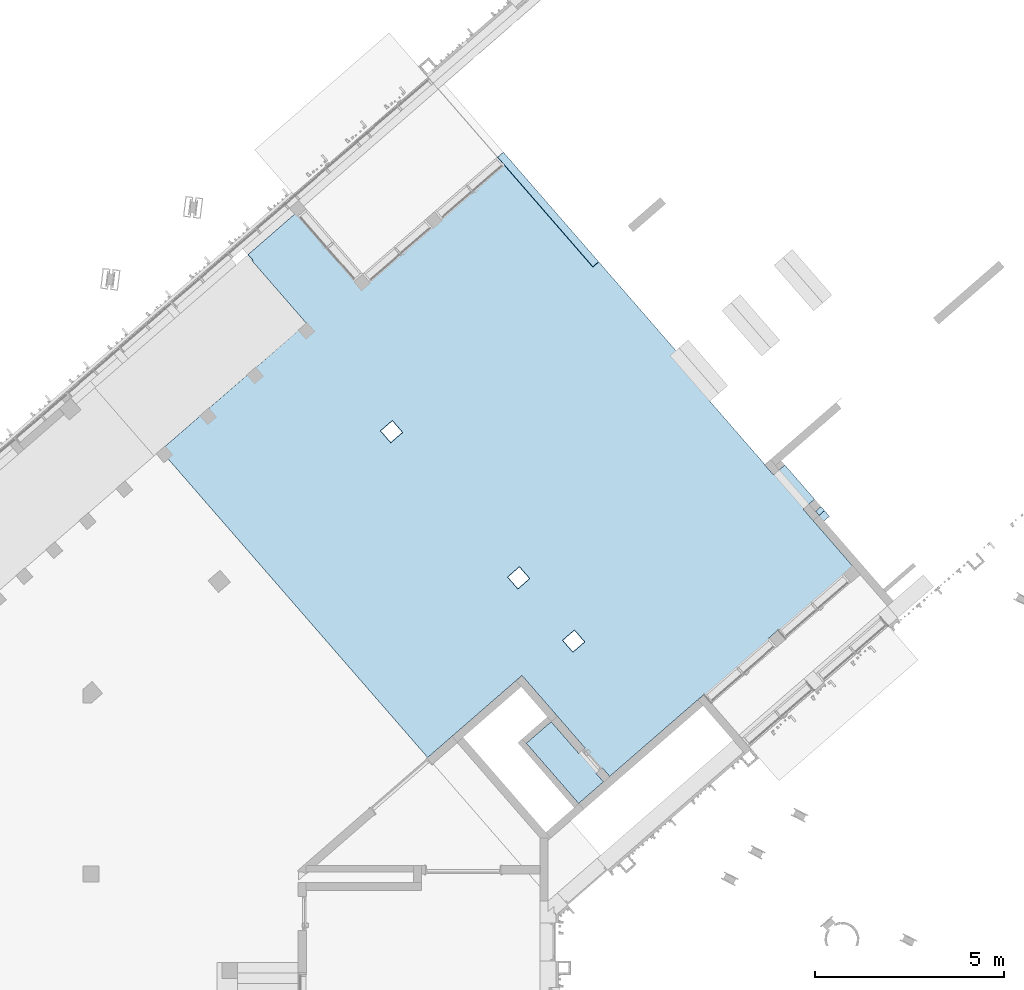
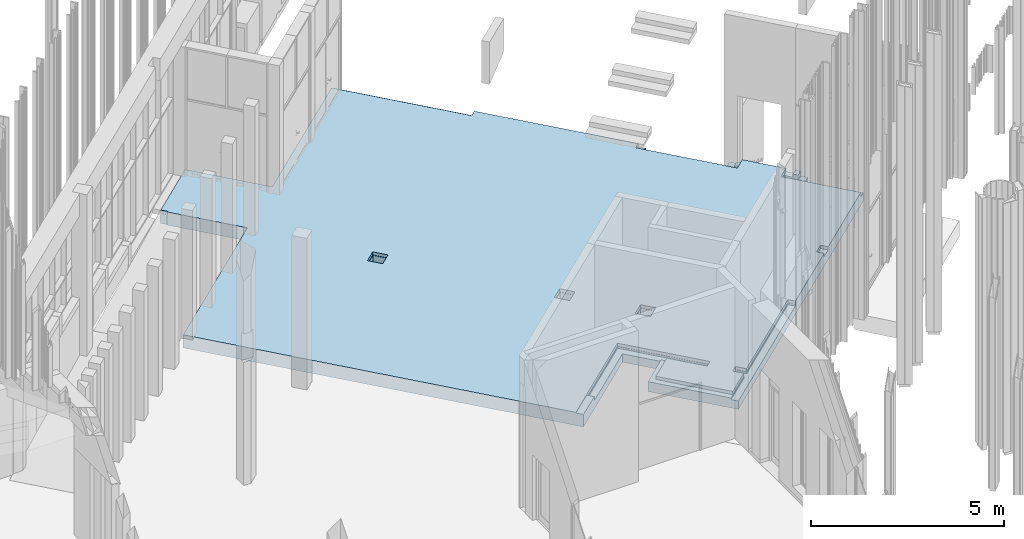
# One storey, part 80 of 390: 1 slab.
"""IFC2X3 building model written with IfcOpenShell, lengths in millimetres."""

from ifc_helpers import new_model, entity, si_unit, converted_unit, derived_unit, money_unit, direction, frame, origin_with_axes, place, context, subcontext, project, spatial, faceted_brep, material, material_list, type_object, element, save


model = new_model("IFC2X3")

# Units and contexts
model_context = context("Model", 3, precision=1e-05, world=origin_with_axes(), true_north=direction((0.0, 1.0)))
body_context = subcontext(model_context, "Body", "Model", "MODEL_VIEW")
ifc_project = project(units=[si_unit("LENGTHUNIT", "METRE", prefix="MILLI"), si_unit("AREAUNIT", "SQUARE_METRE"), si_unit("VOLUMEUNIT", "CUBIC_METRE"), converted_unit("PLANEANGLEUNIT", "DEGREE", entity("IfcPlaneAngleMeasure", 0.0174532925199), si_unit("PLANEANGLEUNIT", "RADIAN"), dimensions=[0, 0, 0, 0, 0, 0, 0]), si_unit("SOLIDANGLEUNIT", "STERADIAN"), money_unit("EUR"), converted_unit("TIMEUNIT", "Year", entity("IfcTimeMeasure", 31556926.0), si_unit("TIMEUNIT", "SECOND"), dimensions=[0, 0, 1, 0, 0, 0, 0]), si_unit("MASSUNIT", "GRAM", prefix="KILO"), si_unit("THERMODYNAMICTEMPERATUREUNIT", "DEGREE_CELSIUS"), si_unit("LUMINOUSINTENSITYUNIT", "LUMEN"), si_unit("ENERGYUNIT", "JOULE", prefix="MEGA"), derived_unit("THERMALCONDUCTANCEUNIT", [(si_unit("POWERUNIT", "WATT"), 1), (si_unit("LENGTHUNIT", "METRE"), -1), (si_unit("THERMODYNAMICTEMPERATUREUNIT", "KELVIN"), -1)]), derived_unit("SPECIFICHEATCAPACITYUNIT", [(si_unit("ENERGYUNIT", "JOULE"), 1), (si_unit("MASSUNIT", "GRAM", prefix="KILO"), -1), (si_unit("THERMODYNAMICTEMPERATUREUNIT", "KELVIN"), -1)]), derived_unit("MASSDENSITYUNIT", [(si_unit("MASSUNIT", "GRAM", prefix="KILO"), 1), (si_unit("VOLUMEUNIT", "CUBIC_METRE"), -1)])], contexts=[model_context])

# Site, building, storey
site_placement = place(None, origin_with_axes())
site = spatial("IfcSite", under=ifc_project, at=site_placement, Name="Site", CompositionType="ELEMENT")
building_placement = place(site_placement, origin_with_axes())
building = spatial("IfcBuilding", under=site, at=building_placement, Name="Building", CompositionType="ELEMENT")
storey_placement = place(building_placement, origin_with_axes())
storey = spatial("IfcBuildingStorey", under=building, at=storey_placement, Name="1 korrus", CompositionType="ELEMENT", Elevation=0.0)

# Slab
ifc_material_1 = material(Name="Puit - Põrand")
ifc_material_2 = material(Name="Betoon")
ifc_material_3 = material(Name="00_mineraalvillaplaat - jäik")
ifc_material_4 = material(Name="Soojustus - Plastik Kõva")
ifc_material_5 = material(Name="Raudbetoon - Konstruktsioon")
ifc_material_list = material_list([ifc_material_1, ifc_material_1, ifc_material_2, ifc_material_2, ifc_material_3, ifc_material_4, ifc_material_4, ifc_material_4, ifc_material_5])
slab_type = type_object("IfcSlabType", Name="VL-01", PredefinedType="FLOOR")
slab_placement = place(storey_placement, frame((129236.831147, 78521.841349, 0.0), z_axis=(0.0, 0.0, 1.0), x_axis=(1.0, 0.0, 0.0)))
element("IfcSlab", 1, at=slab_placement, inside=storey, type_object=slab_type, material=ifc_material_list, Name="VL-01", PredefinedType="FLOOR", context=body_context, shape_type="Brep", body=[
    faceted_brep([(17580.7435235, -1597.95924276, -20.0), (17488.8948544, -1492.29950329, -20.0), (17488.8948544, -1492.29950329, 0.0), (17580.7435235, -1597.95924276, 0.0), (17437.3487344, -1722.61043123, -20.0), (17345.5001384, -1616.95070804, -20.0), (17345.5001384, -1616.95070804, 0.0), (17437.3487344, -1722.61043123, 0.0)], [[[0, 1, 2, 3]], [[4, 5, 1, 0]], [[5, 6, 2, 1]], [[3, 2, 6, 7]], [[4, 0, 3, 7]], [[7, 6, 5, 4]]]),
    faceted_brep([(16107.9068764, -4971.79611513, 0.0), (16349.4139429, -4761.85722679, 0.0), (16487.1863268, -4920.3462258, 0.0), (18453.2048254, -3211.31233488, 0.0), (17016.4356054, -1558.49841316, 0.0), (17318.3193977, -1296.07501259, 0.0), (16531.0482756, -390.423766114, 0.0), (16229.1649024, -652.847067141, 0.0), (15992.9836067, -381.151565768, 0.0), (16000.5307025, -374.590975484, 0.0), (14544.0796406, 1300.86421501, 0.0), (14406.3072466, 1459.35322505, 0.0), (14557.2492158, 1590.56509143, 0.0), (11604.9836261, 4986.7582924, 0.0), (11454.0417104, 4855.54648688, 0.0), (11446.4946146, 4848.98589659, 0.0), (8920.66717713, 7754.61788429, 0.0), (5350.89086603, 4651.45860895, 0.0), (3782.99498076, 6455.2715713, 0.0), (2318.86479177, 5182.53935604, 0.0), (2450.0765685, 5031.59747446, 0.0), (2427.25533367, 5011.75927754, 0.0), (3864.09333069, 3359.00518945, 0.0), (3856.54618294, 3352.44424894, 0.0), (0.0, 0.0, 0.0), (7072.31635168, -8135.76930396, 0.0), (9562.85797597, -5970.77450177, 0.0), (9570.40507177, -5964.21391148, 0.0), (11236.7950068, -7881.17619136, 0.0), (11070.7589032, -8025.50918236, 0.0), (10342.5356293, -7187.78418176, 0.0), (9685.60981118, -7758.84108399, 0.0), (11069.8921052, -9351.27570386, 0.0), (11726.8179532, -8780.21874432, 0.0), (11530.0002382, -8553.80587573, 0.0), (11696.0363418, -8409.47288474, 0.0), (11892.8540568, -8635.88575332, 0.0), (14379.6220594, -6474.17118719, 0.0), (14387.169155, -6467.61059669, 0.0), (14524.9415855, -6626.09963928, 0.0), (16245.6792662, -5130.28512094, 0.0), (10642.1846151, -5032.53017154, 0.0), (10959.1626379, -4756.98537829, 0.0), (11234.7074311, -5073.96340105, 0.0), (10917.7294083, -5349.5081943, 0.0), (5820.15027001, 514.584864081, 0.0), (6137.12829277, 790.12965733, 0.0), (6412.67308602, 473.151634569, 0.0), (6095.69506326, 197.60684132, 0.0), (9185.73361349, -3357.07496409, 0.0), (9502.71163626, -3081.53017084, 0.0), (9778.2564295, -3398.5081936, 0.0), (9461.27840674, -3674.05298685, 0.0), (16107.9068764, -4971.79611513, -20.0), (16349.4139429, -4761.85722679, -20.0), (16487.1863268, -4920.3462258, -20.0), (18453.2048254, -3211.31233488, -20.0), (17016.4356054, -1558.49841316, -20.0), (17318.3193977, -1296.07501259, -20.0), (16531.0482756, -390.423766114, -20.0), (16229.1649024, -652.847067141, -20.0), (15992.9836067, -381.151565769, -20.0), (16000.5307025, -374.590975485, -20.0), (14544.0796413, 1300.8642156, -20.0), (14406.3072473, 1459.35322567, -20.0), (14557.2492158, 1590.56509143, -20.0), (11604.9836261, 4986.7582924, -20.0), (11454.0417104, 4855.54648688, -20.0), (11446.4946146, 4848.98589659, -20.0), (8920.66717713, 7754.61788429, -20.0), (5350.89086603, 4651.45860895, -20.0), (3782.99498076, 6455.2715713, -20.0), (2318.86479177, 5182.53935604, -20.0), (2450.0765685, 5031.59747446, -20.0), (2427.25533367, 5011.75927754, -20.0), (3864.09333069, 3359.00518945, -20.0), (3856.54618294, 3352.44424894, -20.0), (0.0, 0.0, -20.0), (7072.31635168, -8135.76930396, -20.0), (9562.85797597, -5970.77450177, -20.0), (7721.03632351, -7571.8456358, -20.0), (9570.40507177, -5964.21391148, -20.0), (11236.7950068, -7881.17619136, -20.0), (11070.7589032, -8025.50918236, -20.0), (10342.5356293, -7187.78418176, -20.0), (9685.60981118, -7758.84108399, -20.0), (11069.8921052, -9351.27570386, -20.0), (11726.8179532, -8780.21874432, -20.0), (11530.0002382, -8553.80587573, -20.0), (11696.0363418, -8409.47288474, -20.0), (11892.8540568, -8635.88575332, -20.0), (14379.6220594, -6474.17118719, -20.0), (14387.169155, -6467.61059669, -20.0), (14524.9415855, -6626.09963928, -20.0), (16245.6792662, -5130.28512094, -20.0), (10642.1846151, -5032.53017154, -20.0), (10959.1626379, -4756.98537829, -20.0), (11234.7074311, -5073.96340105, -20.0), (10917.7294083, -5349.5081943, -20.0), (5820.15027001, 514.584864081, -20.0), (6137.12829277, 790.12965733, -20.0), (6412.67308602, 473.151634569, -20.0), (6095.69506326, 197.60684132, -20.0), (9185.73361349, -3357.07496409, -20.0), (9502.71163626, -3081.53017084, -20.0), (9778.2564295, -3398.5081936, -20.0), (9461.27840674, -3674.05298685, -20.0)], [[[0, 1, 2, 3, 4, 5, 6, 7, 8, 9, 10, 11, 12, 13, 14, 15, 16, 17, 18, 19, 20, 21, 22, 23, 24, 25, 26, 27, 28, 29, 30, 31, 32, 33, 34, 35, 36, 37, 38, 39, 40], [41, 42, 43, 44], [45, 46, 47, 48], [49, 50, 51, 52]], [[1, 0, 53, 54]], [[55, 2, 1, 54]], [[2, 55, 56, 3]], [[4, 3, 56, 57]], [[57, 58, 5, 4]], [[58, 59, 6, 5]], [[7, 6, 59, 60]], [[61, 8, 7, 60]], [[61, 62, 9, 8]], [[62, 63, 10, 9]], [[63, 64, 11, 10]], [[64, 65, 12, 11]], [[13, 12, 65, 66]], [[67, 14, 13, 66]], [[15, 14, 67, 68]], [[69, 16, 15, 68]], [[17, 16, 69, 70]], [[17, 70, 71, 18]], [[72, 19, 18, 71]], [[20, 19, 72, 73]], [[21, 20, 73, 74]], [[21, 74, 75, 22]], [[22, 75, 76, 23]], [[23, 76, 77, 24]], [[77, 78, 25, 24]], [[79, 26, 25, 78, 80]], [[27, 26, 79, 81]], [[82, 28, 27, 81]], [[29, 28, 82, 83]], [[83, 84, 30, 29]], [[85, 31, 30, 84]], [[32, 31, 85, 86]], [[33, 32, 86, 87]], [[88, 34, 33, 87]], [[88, 89, 35, 34]], [[89, 90, 36, 35]], [[37, 36, 90, 91]], [[38, 37, 91, 92]], [[92, 93, 39, 38]], [[94, 40, 39, 93]], [[0, 40, 94, 53]], [[42, 41, 95, 96]], [[43, 42, 96, 97]], [[44, 43, 97, 98]], [[41, 44, 98, 95]], [[46, 45, 99, 100]], [[47, 46, 100, 101]], [[48, 47, 101, 102]], [[45, 48, 102, 99]], [[50, 49, 103, 104]], [[51, 50, 104, 105]], [[52, 51, 105, 106]], [[49, 52, 106, 103]], [[53, 94, 93, 92, 91, 90, 89, 88, 87, 86, 85, 84, 83, 82, 81, 79, 80, 78, 77, 76, 75, 74, 73, 72, 71, 70, 69, 68, 67, 66, 65, 64, 63, 62, 61, 60, 59, 58, 57, 56, 55, 54], [95, 98, 97, 96], [99, 102, 101, 100], [103, 106, 105, 104]]]),
    faceted_brep([(17580.7435235, -1597.95924276, -100.0), (17488.8948544, -1492.29950329, -100.0), (17488.8948544, -1492.29950329, -20.0), (17580.7435235, -1597.95924276, -20.0), (17437.3487344, -1722.61043123, -100.0), (17345.5001384, -1616.95070804, -100.0), (17345.5001384, -1616.95070804, -20.0), (17437.3487344, -1722.61043123, -20.0)], [[[0, 1, 2, 3]], [[4, 5, 1, 0]], [[5, 6, 2, 1]], [[3, 2, 6, 7]], [[4, 0, 3, 7]], [[7, 6, 5, 4]]]),
    faceted_brep([(16107.9068764, -4971.79611513, -20.0), (16349.4139429, -4761.85722679, -20.0), (16487.1863268, -4920.3462258, -20.0), (18453.2048254, -3211.31233488, -20.0), (17016.4356054, -1558.49841316, -20.0), (17318.3193977, -1296.07501259, -20.0), (16531.0482756, -390.423766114, -20.0), (16229.1649024, -652.847067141, -20.0), (15992.9836067, -381.151565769, -20.0), (16000.5307025, -374.590975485, -20.0), (14544.0796413, 1300.8642156, -20.0), (14406.3072473, 1459.35322567, -20.0), (14557.2492158, 1590.56509143, -20.0), (11604.9836261, 4986.7582924, -20.0), (11454.0417104, 4855.54648688, -20.0), (11446.4946146, 4848.98589659, -20.0), (8920.66717713, 7754.61788429, -20.0), (5350.89086603, 4651.45860895, -20.0), (3782.99498076, 6455.2715713, -20.0), (2318.86479177, 5182.53935604, -20.0), (2450.0765685, 5031.59747446, -20.0), (2427.25533367, 5011.75927754, -20.0), (3864.09333069, 3359.00518945, -20.0), (3856.54618294, 3352.44424894, -20.0), (0.0, 0.0, -20.0), (7210.0886829, -8294.25824133, -20.0), (7858.80871951, -7730.33464773, -20.0), (7721.03632351, -7571.8456358, -20.0), (9562.85797597, -5970.77450177, -20.0), (9570.40507177, -5964.21391148, -20.0), (11236.7950068, -7881.17619136, -20.0), (11070.7589032, -8025.50918236, -20.0), (10342.5356293, -7187.78418176, -20.0), (9685.60981118, -7758.84108399, -20.0), (11069.8921052, -9351.27570386, -20.0), (11726.8179532, -8780.21874432, -20.0), (11530.0002382, -8553.80587573, -20.0), (11696.0363418, -8409.47288474, -20.0), (11892.8540568, -8635.88575332, -20.0), (14379.6220594, -6474.17118719, -20.0), (14387.169155, -6467.61059669, -20.0), (14524.9415855, -6626.09963928, -20.0), (16245.6792662, -5130.28512094, -20.0), (10642.1846151, -5032.53017154, -20.0), (10959.1626379, -4756.98537829, -20.0), (11234.7074311, -5073.96340105, -20.0), (10917.7294083, -5349.5081943, -20.0), (5820.15027001, 514.584864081, -20.0), (6137.12829277, 790.12965733, -20.0), (6412.67308602, 473.151634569, -20.0), (6095.69506326, 197.60684132, -20.0), (9185.73361349, -3357.07496409, -20.0), (9502.71163626, -3081.53017084, -20.0), (9778.2564295, -3398.5081936, -20.0), (9461.27840674, -3674.05298685, -20.0), (16107.9068764, -4971.79611513, -100.0), (16349.4139429, -4761.85722679, -100.0), (16487.1863268, -4920.3462258, -100.0), (18453.2048254, -3211.31233488, -100.0), (17016.4356054, -1558.49841316, -100.0), (17318.3193977, -1296.07501259, -100.0), (16531.0482756, -390.423766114, -100.0), (16229.1649024, -652.847067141, -100.0), (15992.9836067, -381.151565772, -100.0), (16000.5307025, -374.590975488, -100.0), (14544.0796442, 1300.86421794, -100.0), (14406.3072501, 1459.35322813, -100.0), (14557.2492158, 1590.56509143, -100.0), (11604.9836261, 4986.7582924, -100.0), (11454.0417104, 4855.54648688, -100.0), (11446.4946146, 4848.98589659, -100.0), (8920.66717713, 7754.61788429, -100.0), (5350.89086603, 4651.45860895, -100.0), (3782.99498076, 6455.2715713, -100.0), (2318.86479177, 5182.53935604, -100.0), (2450.0765685, 5031.59747446, -100.0), (2427.25533367, 5011.75927754, -100.0), (3864.09333069, 3359.00518945, -100.0), (3856.54618294, 3352.44424894, -100.0), (0.0, 0.0, -100.0), (7210.0886829, -8294.25824133, -100.0), (7858.80871951, -7730.33464773, -100.0), (7721.03632351, -7571.8456358, -100.0), (9562.85797597, -5970.77450177, -100.0), (9570.40507177, -5964.21391148, -100.0), (11236.7950068, -7881.17619136, -100.0), (11070.7589032, -8025.50918236, -100.0), (10342.5356293, -7187.78418176, -100.0), (9685.60981118, -7758.84108399, -100.0), (11069.8921052, -9351.27570386, -100.0), (11726.8179532, -8780.21874432, -100.0), (11530.0002382, -8553.80587573, -100.0), (11696.0363418, -8409.47288474, -100.0), (11892.8540568, -8635.88575332, -100.0), (14379.6220594, -6474.17118719, -100.0), (14387.169155, -6467.61059669, -100.0), (14524.9415855, -6626.09963928, -100.0), (16245.6792662, -5130.28512094, -100.0), (10642.1846151, -5032.53017154, -100.0), (10959.1626379, -4756.98537829, -100.0), (11234.7074311, -5073.96340105, -100.0), (10917.7294083, -5349.5081943, -100.0), (5820.15027001, 514.584864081, -100.0), (6137.12829277, 790.12965733, -100.0), (6412.67308602, 473.151634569, -100.0), (6095.69506326, 197.60684132, -100.0), (9185.73361349, -3357.07496409, -100.0), (9502.71163626, -3081.53017084, -100.0), (9778.2564295, -3398.5081936, -100.0), (9461.27840674, -3674.05298685, -100.0)], [[[0, 1, 2, 3, 4, 5, 6, 7, 8, 9, 10, 11, 12, 13, 14, 15, 16, 17, 18, 19, 20, 21, 22, 23, 24, 25, 26, 27, 28, 29, 30, 31, 32, 33, 34, 35, 36, 37, 38, 39, 40, 41, 42], [43, 44, 45, 46], [47, 48, 49, 50], [51, 52, 53, 54]], [[1, 0, 55, 56]], [[57, 2, 1, 56]], [[2, 57, 58, 3]], [[4, 3, 58, 59]], [[59, 60, 5, 4]], [[60, 61, 6, 5]], [[7, 6, 61, 62]], [[63, 8, 7, 62]], [[63, 64, 9, 8]], [[64, 65, 10, 9]], [[65, 66, 11, 10]], [[66, 67, 12, 11]], [[13, 12, 67, 68]], [[69, 14, 13, 68]], [[15, 14, 69, 70]], [[71, 16, 15, 70]], [[17, 16, 71, 72]], [[17, 72, 73, 18]], [[74, 19, 18, 73]], [[20, 19, 74, 75]], [[21, 20, 75, 76]], [[21, 76, 77, 22]], [[22, 77, 78, 23]], [[23, 78, 79, 24]], [[24, 79, 80, 25]], [[80, 81, 26, 25]], [[81, 82, 27, 26]], [[82, 83, 28, 27]], [[29, 28, 83, 84]], [[85, 30, 29, 84]], [[31, 30, 85, 86]], [[86, 87, 32, 31]], [[88, 33, 32, 87]], [[34, 33, 88, 89]], [[35, 34, 89, 90]], [[91, 36, 35, 90]], [[91, 92, 37, 36]], [[92, 93, 38, 37]], [[39, 38, 93, 94]], [[40, 39, 94, 95]], [[95, 96, 41, 40]], [[97, 42, 41, 96]], [[0, 42, 97, 55]], [[44, 43, 98, 99]], [[45, 44, 99, 100]], [[46, 45, 100, 101]], [[43, 46, 101, 98]], [[48, 47, 102, 103]], [[49, 48, 103, 104]], [[50, 49, 104, 105]], [[47, 50, 105, 102]], [[52, 51, 106, 107]], [[53, 52, 107, 108]], [[54, 53, 108, 109]], [[51, 54, 109, 106]], [[55, 97, 96, 95, 94, 93, 92, 91, 90, 89, 88, 87, 86, 85, 84, 83, 82, 81, 80, 79, 78, 77, 76, 75, 74, 73, 72, 71, 70, 69, 68, 67, 66, 65, 64, 63, 62, 61, 60, 59, 58, 57, 56], [98, 101, 100, 99], [102, 105, 104, 103], [106, 109, 108, 107]]]),
    faceted_brep([(2435.96888241, 5032.58397993, -130.0), (2311.31765324, 5175.9788149, -130.0), (3782.99498076, 6455.2715713, -130.0), (5350.89086603, 4651.45860895, -130.0), (8928.21427364, 7761.17847506, -130.0), (11447.48112, 4863.09358259, -130.0), (11598.423036, 4994.30538834, -130.0), (14695.0216176, 1432.0760688, -130.0), (14544.0797163, 1300.86412337, -130.0), (16007.0912914, -382.138069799, -130.0), (16236.7119982, -646.286476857, -130.0), (16387.6539143, -515.074671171, -130.0), (16289.2450151, -401.868182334, -130.0), (16432.6393843, -277.217359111, -130.0), (17580.7435235, -1597.95924276, -130.0), (17437.3487344, -1722.61043123, -130.0), (17174.9246173, -1420.72601719, -130.0), (17023.9827012, -1551.93782287, -130.0), (18460.7519211, -3204.75174441, -130.0), (14517.3944902, -6632.66022946, -130.0), (14386.1826499, -6481.71828279, -130.0), (14235.2407375, -6612.93009281, -130.0), (11891.8675517, -8649.99343944, -130.0), (11688.4892462, -8416.03347523, -130.0), (11537.5473338, -8547.24528523, -130.0), (11740.9256393, -8781.20524944, -130.0), (10955.6991655, -9463.79224766, -130.0), (9459.88696397, -7743.05686928, -130.0), (10245.1132771, -7060.47006155, -130.0), (11078.3059988, -8018.94859186, -130.0), (11229.2479112, -7887.73678186, -130.0), (9569.41856625, -5978.32159757, -130.0), (9418.47665013, -6109.53340328, -130.0), (7727.59691379, -7579.39273161, -130.0), (7858.80871951, -7730.33464773, -130.0), (7210.0886829, -8294.25824133, -130.0), (0.0, 0.0, -130.0), (3856.54618294, 3352.44424894, -130.0), (3864.09333069, 3359.00518945, -130.0), (2420.69442923, 5019.30610026, -130.0), (10656.2923012, -5033.516677, -130.0), (10918.7159138, -5335.4005082, -130.0), (11220.599745, -5072.97689558, -130.0), (10958.1761324, -4771.09306438, -130.0), (5834.25795611, 513.598358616, -130.0), (6096.68156873, 211.714527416, -130.0), (6398.56539993, 474.138140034, -130.0), (6136.14178731, 776.021971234, -130.0), (9199.84129959, -3358.06146956, -130.0), (9462.26491221, -3659.94530076, -130.0), (9764.14874341, -3397.52168814, -130.0), (9501.72513079, -3095.63785694, -130.0), (2435.96888241, 5032.58397993, -100.0), (2311.31765324, 5175.9788149, -100.0), (3782.99498076, 6455.2715713, -100.0), (5350.89086603, 4651.45860895, -100.0), (8928.21427362, 7761.17847504, -100.0), (11447.48112, 4863.09358259, -100.0), (11598.423036, 4994.30538833, -100.0), (14695.0216176, 1432.0760688, -100.0), (14544.0797163, 1300.86412337, -100.0), (16007.0912915, -382.138069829, -100.0), (16236.7119982, -646.286476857, -100.0), (16387.6539143, -515.074671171, -100.0), (16289.2450151, -401.868182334, -100.0), (16432.6393843, -277.217359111, -100.0), (17580.7435235, -1597.95924276, -100.0), (17437.3487344, -1722.61043123, -100.0), (17174.9246173, -1420.72601719, -100.0), (17023.9827012, -1551.93782287, -100.0), (18460.7519211, -3204.75174441, -100.0), (14517.3944902, -6632.66022946, -100.0), (14386.1826499, -6481.71828279, -100.0), (14235.2407375, -6612.93009281, -100.0), (11891.8675517, -8649.99343944, -100.0), (11688.4892462, -8416.03347523, -100.0), (11537.5473338, -8547.24528523, -100.0), (11740.9256393, -8781.20524944, -100.0), (10955.6991655, -9463.79224766, -100.0), (9459.88696397, -7743.05686928, -100.0), (10245.1132771, -7060.47006155, -100.0), (11078.3059988, -8018.94859186, -100.0), (11229.2479112, -7887.73678186, -100.0), (9569.41856625, -5978.32159757, -100.0), (9418.47665013, -6109.53340328, -100.0), (7727.59691379, -7579.39273161, -100.0), (7858.80871951, -7730.33464773, -100.0), (7210.0886829, -8294.25824133, -100.0), (0.0, 0.0, -100.0), (3856.54618294, 3352.44424894, -100.0), (3864.09333069, 3359.00518945, -100.0), (2420.69442923, 5019.30610026, -100.0), (10656.2923012, -5033.516677, -100.0), (10918.7159138, -5335.4005082, -100.0), (11220.599745, -5072.97689558, -100.0), (10958.1761324, -4771.09306438, -100.0), (5834.25795611, 513.598358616, -100.0), (6096.68156873, 211.714527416, -100.0), (6398.56539993, 474.138140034, -100.0), (6136.14178731, 776.021971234, -100.0), (9199.84129959, -3358.06146956, -100.0), (9462.26491221, -3659.94530076, -100.0), (9764.14874341, -3397.52168814, -100.0), (9501.72513079, -3095.63785694, -100.0)], [[[0, 1, 2, 3, 4, 5, 6, 7, 8, 9, 10, 11, 12, 13, 14, 15, 16, 17, 18, 19, 20, 21, 22, 23, 24, 25, 26, 27, 28, 29, 30, 31, 32, 33, 34, 35, 36, 37, 38, 39], [40, 41, 42, 43], [44, 45, 46, 47], [48, 49, 50, 51]], [[52, 53, 1, 0]], [[1, 53, 54, 2]], [[55, 3, 2, 54]], [[55, 56, 4, 3]], [[4, 56, 57, 5]], [[5, 57, 58, 6]], [[7, 6, 58, 59]], [[60, 8, 7, 59]], [[60, 61, 9, 8]], [[9, 61, 62, 10]], [[10, 62, 63, 11]], [[63, 64, 12, 11]], [[12, 64, 65, 13]], [[14, 13, 65, 66]], [[15, 14, 66, 67]], [[15, 67, 68, 16]], [[16, 68, 69, 17]], [[69, 70, 18, 17]], [[70, 71, 19, 18]], [[20, 19, 71, 72]], [[72, 73, 21, 20]], [[73, 74, 22, 21]], [[23, 22, 74, 75]], [[23, 75, 76, 24]], [[24, 76, 77, 25]], [[26, 25, 77, 78]], [[27, 26, 78, 79]], [[80, 28, 27, 79]], [[28, 80, 81, 29]], [[29, 81, 82, 30]], [[82, 83, 31, 30]], [[83, 84, 32, 31]], [[33, 32, 84, 85]], [[33, 85, 86, 34]], [[35, 34, 86, 87]], [[88, 36, 35, 87]], [[89, 37, 36, 88]], [[90, 38, 37, 89]], [[91, 39, 38, 90]], [[91, 52, 0, 39]], [[92, 93, 41, 40]], [[93, 94, 42, 41]], [[94, 95, 43, 42]], [[95, 92, 40, 43]], [[96, 97, 45, 44]], [[97, 98, 46, 45]], [[98, 99, 47, 46]], [[99, 96, 44, 47]], [[100, 101, 49, 48]], [[101, 102, 50, 49]], [[102, 103, 51, 50]], [[103, 100, 48, 51]], [[52, 91, 90, 89, 88, 87, 86, 85, 84, 83, 82, 81, 80, 79, 78, 77, 76, 75, 74, 73, 72, 71, 70, 69, 68, 67, 66, 65, 64, 63, 62, 61, 60, 59, 58, 57, 56, 55, 54, 53], [92, 95, 94, 93], [96, 99, 98, 97], [100, 103, 102, 101]]]),
    faceted_brep([(17580.7435235, -1597.95924276, -150.0), (16432.6393843, -277.217359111, -150.0), (16432.6393843, -277.217359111, -130.0), (17580.7435235, -1597.95924276, -130.0), (17437.3487344, -1722.61043123, -150.0), (16289.2450151, -401.868182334, -150.0), (16289.2450151, -401.868182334, -130.0), (17437.3487344, -1722.61043123, -130.0)], [[[0, 1, 2, 3]], [[4, 5, 1, 0]], [[5, 6, 2, 1]], [[3, 2, 6, 7]], [[4, 0, 3, 7]], [[7, 6, 5, 4]]]),
    faceted_brep([(2435.96888241, 5032.58397993, -150.0), (2311.31765324, 5175.9788149, -150.0), (3782.99498076, 6455.2715713, -150.0), (5350.89086603, 4651.45860895, -150.0), (8928.21427365, 7761.17847507, -150.0), (11447.48112, 4863.09358259, -150.0), (11598.423036, 4994.30538834, -150.0), (14695.0216176, 1432.0760688, -150.0), (14544.0797163, 1300.86412337, -150.0), (16007.0912914, -382.138069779, -150.0), (18460.7519211, -3204.75174441, -150.0), (14517.39449, -6632.66022969, -150.0), (14386.1826499, -6481.71828279, -150.0), (14235.2407375, -6612.93009281, -150.0), (11891.8675517, -8649.99343944, -150.0), (9569.41856625, -5978.32159757, -150.0), (9418.47665013, -6109.53340328, -150.0), (7727.59691379, -7579.39273161, -150.0), (7858.80871951, -7730.33464773, -150.0), (7210.0886829, -8294.25824133, -150.0), (0.0, 0.0, -150.0), (3856.54618294, 3352.44424894, -150.0), (3864.09333069, 3359.00518945, -150.0), (2420.69442923, 5019.30610026, -150.0), (10656.2923012, -5033.516677, -150.0), (10918.7159138, -5335.4005082, -150.0), (11220.599745, -5072.97689558, -150.0), (10958.1761324, -4771.09306438, -150.0), (5834.25795611, 513.598358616, -150.0), (6096.68156873, 211.714527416, -150.0), (6398.56539993, 474.138140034, -150.0), (6136.14178731, 776.021971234, -150.0), (9199.84129959, -3358.06146956, -150.0), (9462.26491221, -3659.94530076, -150.0), (9764.14874341, -3397.52168814, -150.0), (9501.72513079, -3095.63785694, -150.0), (2435.96888241, 5032.58397993, -130.0), (2311.31765324, 5175.9788149, -130.0), (3782.99498076, 6455.2715713, -130.0), (5350.89086603, 4651.45860895, -130.0), (8928.21427364, 7761.17847506, -130.0), (11447.48112, 4863.09358259, -130.0), (11598.423036, 4994.30538834, -130.0), (14695.0216176, 1432.0760688, -130.0), (14544.0797163, 1300.86412337, -130.0), (16007.0912914, -382.138069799, -130.0), (18460.7519211, -3204.75174441, -130.0), (14517.3944902, -6632.66022946, -130.0), (14386.1826499, -6481.71828279, -130.0), (14235.2407375, -6612.93009281, -130.0), (11891.8675517, -8649.99343944, -130.0), (9569.41856625, -5978.32159757, -130.0), (9418.47665013, -6109.53340328, -130.0), (7727.59691379, -7579.39273161, -130.0), (7858.80871951, -7730.33464773, -130.0), (7210.0886829, -8294.25824133, -130.0), (0.0, 0.0, -130.0), (3856.54618294, 3352.44424894, -130.0), (3864.09333069, 3359.00518945, -130.0), (2420.69442923, 5019.30610026, -130.0), (10656.2923012, -5033.516677, -130.0), (10918.7159138, -5335.4005082, -130.0), (11220.599745, -5072.97689558, -130.0), (10958.1761324, -4771.09306438, -130.0), (5834.25795611, 513.598358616, -130.0), (6096.68156873, 211.714527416, -130.0), (6398.56539993, 474.138140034, -130.0), (6136.14178731, 776.021971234, -130.0), (9199.84129959, -3358.06146956, -130.0), (9462.26491221, -3659.94530076, -130.0), (9764.14874341, -3397.52168814, -130.0), (9501.72513079, -3095.63785694, -130.0)], [[[0, 1, 2, 3, 4, 5, 6, 7, 8, 9, 10, 11, 12, 13, 14, 15, 16, 17, 18, 19, 20, 21, 22, 23], [24, 25, 26, 27], [28, 29, 30, 31], [32, 33, 34, 35]], [[36, 37, 1, 0]], [[1, 37, 38, 2]], [[39, 3, 2, 38]], [[39, 40, 4, 3]], [[4, 40, 41, 5]], [[5, 41, 42, 6]], [[7, 6, 42, 43]], [[44, 8, 7, 43]], [[44, 45, 9, 8]], [[45, 46, 10, 9]], [[46, 47, 11, 10]], [[12, 11, 47, 48]], [[48, 49, 13, 12]], [[49, 50, 14, 13]], [[50, 51, 15, 14]], [[51, 52, 16, 15]], [[17, 16, 52, 53]], [[17, 53, 54, 18]], [[19, 18, 54, 55]], [[56, 20, 19, 55]], [[57, 21, 20, 56]], [[58, 22, 21, 57]], [[59, 23, 22, 58]], [[59, 36, 0, 23]], [[60, 61, 25, 24]], [[61, 62, 26, 25]], [[62, 63, 27, 26]], [[63, 60, 24, 27]], [[64, 65, 29, 28]], [[65, 66, 30, 29]], [[66, 67, 31, 30]], [[67, 64, 28, 31]], [[68, 69, 33, 32]], [[69, 70, 34, 33]], [[70, 71, 35, 34]], [[71, 68, 32, 35]], [[36, 59, 58, 57, 56, 55, 54, 53, 52, 51, 50, 49, 48, 47, 46, 45, 44, 43, 42, 41, 40, 39, 38, 37], [60, 63, 62, 61], [64, 67, 66, 65], [68, 71, 70, 69]]]),
    faceted_brep([(10955.6991655, -9463.79224766, -130.0), (11740.9256393, -8781.20524944, -130.0), (10245.1132771, -7060.47006155, -130.0), (9459.88696397, -7743.05686928, -130.0), (10955.6991655, -9463.79224766, -150.0), (11740.9256393, -8781.20524944, -150.0), (10245.1132771, -7060.47006155, -150.0), (9459.88696397, -7743.05686928, -150.0)], [[[0, 1, 2, 3]], [[4, 5, 1, 0]], [[6, 2, 1, 5]], [[2, 6, 7, 3]], [[7, 4, 0, 3]], [[7, 6, 5, 4]]]),
    faceted_brep([(2435.96888241, 5032.58397993, -415.0), (2311.31765324, 5175.9788149, -415.0), (3782.99498076, 6455.2715713, -415.0), (5350.89086603, 4651.45860895, -415.0), (9079.15606016, 7892.39016538, -415.0), (14695.0216176, 1432.0760688, -415.0), (14544.0797163, 1300.86412337, -415.0), (16007.0913356, -382.138228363, -415.0), (16301.4274449, -126.275386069, -415.0), (17711.9549538, -1748.90063015, -415.0), (17568.5601199, -1873.55186758, -415.0), (18611.6939933, -3073.53979642, -415.0), (11086.9109093, -9614.73425674, -415.0), (9459.88696397, -7743.05686928, -415.0), (10245.1137034, -7060.46973061, -415.0), (9549.68839859, -6260.47539759, -415.0), (7210.0886829, -8294.25824133, -415.0), (0.0, 0.0, -415.0), (3856.54618294, 3352.44424894, -415.0), (3864.09333069, 3359.00518945, -415.0), (2420.69442923, 5019.30610026, -415.0), (10656.2923012, -5033.516677, -415.0), (10918.7159138, -5335.4005082, -415.0), (11220.599745, -5072.97689558, -415.0), (10958.1761324, -4771.09306438, -415.0), (5834.25795611, 513.598358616, -415.0), (6096.68156873, 211.714527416, -415.0), (6398.56539993, 474.138140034, -415.0), (6136.14178731, 776.021971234, -415.0), (9199.84129959, -3358.06146956, -415.0), (9462.26491221, -3659.94530076, -415.0), (9764.14874341, -3397.52168814, -415.0), (9501.72513079, -3095.63785694, -415.0), (2435.96888241, 5032.58397993, -150.0), (2311.31765324, 5175.9788149, -150.0), (3782.99498076, 6455.2715713, -150.0), (5350.89086603, 4651.45860895, -150.0), (9079.15606016, 7892.39016538, -150.0), (14695.0216176, 1432.0760688, -150.0), (14544.0797163, 1300.86412337, -150.0), (16007.0913356, -382.138228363, -150.0), (16301.4274449, -126.275386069, -150.0), (17711.9549538, -1748.90063015, -150.0), (17568.5601199, -1873.55186758, -150.0), (18611.6939933, -3073.53979642, -150.0), (11086.9109093, -9614.73425674, -150.0), (9459.88696397, -7743.05686928, -150.0), (10245.1137034, -7060.46973061, -150.0), (9549.68839859, -6260.47539759, -150.0), (7210.0886829, -8294.25824133, -150.0), (0.0, 0.0, -150.0), (3856.54618294, 3352.44424894, -150.0), (3864.09333069, 3359.00518945, -150.0), (2420.69442923, 5019.30610026, -150.0), (10656.2923012, -5033.516677, -150.0), (10918.7159138, -5335.4005082, -150.0), (11220.599745, -5072.97689558, -150.0), (10958.1761324, -4771.09306438, -150.0), (5834.25795611, 513.598358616, -150.0), (6096.68156873, 211.714527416, -150.0), (6398.56539993, 474.138140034, -150.0), (6136.14178731, 776.021971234, -150.0), (9199.84129959, -3358.06146956, -150.0), (9462.26491221, -3659.94530076, -150.0), (9764.14874341, -3397.52168814, -150.0), (9501.72513079, -3095.63785694, -150.0)], [[[0, 1, 2, 3, 4, 5, 6, 7, 8, 9, 10, 11, 12, 13, 14, 15, 16, 17, 18, 19, 20], [21, 22, 23, 24], [25, 26, 27, 28], [29, 30, 31, 32]], [[33, 34, 1, 0]], [[1, 34, 35, 2]], [[35, 36, 3, 2]], [[36, 37, 4, 3]], [[37, 38, 5, 4]], [[38, 39, 6, 5]], [[39, 40, 7, 6]], [[40, 41, 8, 7]], [[41, 42, 9, 8]], [[42, 43, 10, 9]], [[43, 44, 11, 10]], [[44, 45, 12, 11]], [[45, 46, 13, 12]], [[46, 47, 14, 13]], [[47, 48, 15, 14]], [[48, 49, 16, 15]], [[49, 50, 17, 16]], [[50, 51, 18, 17]], [[51, 52, 19, 18]], [[53, 20, 19, 52]], [[53, 33, 0, 20]], [[54, 55, 22, 21]], [[55, 56, 23, 22]], [[56, 57, 24, 23]], [[57, 54, 21, 24]], [[58, 59, 26, 25]], [[59, 60, 27, 26]], [[60, 61, 28, 27]], [[61, 58, 25, 28]], [[62, 63, 30, 29]], [[63, 64, 31, 30]], [[64, 65, 32, 31]], [[65, 62, 29, 32]], [[33, 53, 52, 51, 50, 49, 48, 47, 46, 45, 44, 43, 42, 41, 40, 39, 38, 37, 36, 35, 34], [54, 57, 56, 55], [58, 61, 60, 59], [62, 65, 64, 63]]]),
])

save(model, "model.ifc")
